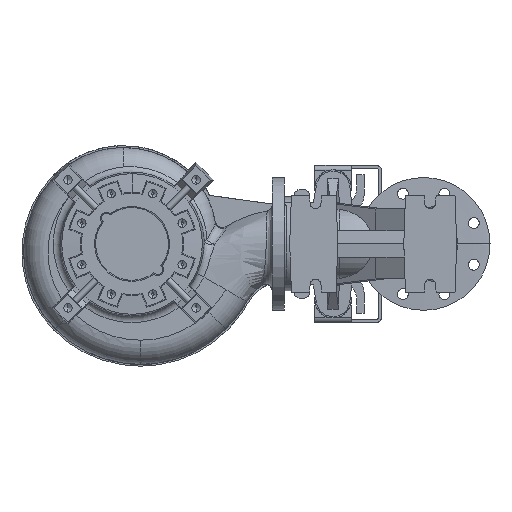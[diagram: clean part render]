
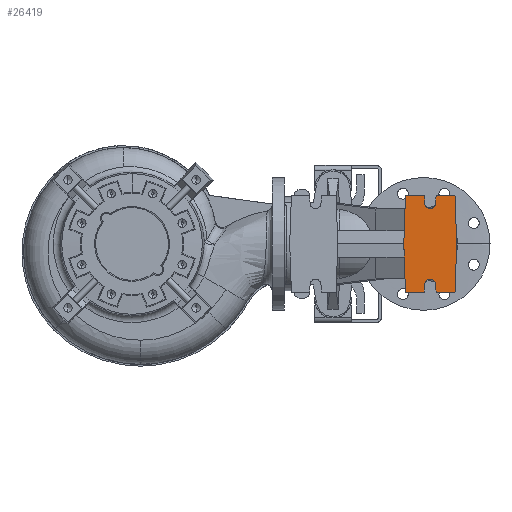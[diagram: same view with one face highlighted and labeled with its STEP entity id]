
A CAD part, front view. The second image highlights one B-rep face of the part: STEP entity #26419.
In plain terms, the highlighted planar face has unit normal (0, -1, 0).
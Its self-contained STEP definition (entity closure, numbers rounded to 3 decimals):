
#779 = CARTESIAN_POINT ( 'NONE',  ( 494., -332., 67.5 ) ) ;
#942 = CIRCLE ( 'NONE', #10735, 9. ) ;
#1427 = AXIS2_PLACEMENT_3D ( 'NONE', #2988, #6251, #15425 ) ;
#1628 = VECTOR ( 'NONE', #4411, 1000. ) ;
#1698 = CARTESIAN_POINT ( 'NONE',  ( 502.988, -332., 67.029 ) ) ;
#1704 = EDGE_CURVE ( 'NONE', #39721, #29765, #27693, .T. ) ;
#2017 = VECTOR ( 'NONE', #14602, 1000. ) ;
#2795 = DIRECTION ( 'NONE',  ( 1., 0., 0. ) ) ;
#2988 = CARTESIAN_POINT ( 'NONE',  ( 494., -332., -67.5 ) ) ;
#3316 = ORIENTED_EDGE ( 'NONE', *, *, #22464, .F. ) ;
#3815 = VERTEX_POINT ( 'NONE', #14308 ) ;
#4085 = EDGE_CURVE ( 'NONE', #39721, #22048, #12103, .T. ) ;
#4411 = DIRECTION ( 'NONE',  ( -0.052, 0., 0.999 ) ) ;
#4763 = ORIENTED_EDGE ( 'NONE', *, *, #15176, .F. ) ;
#4981 = VERTEX_POINT ( 'NONE', #23804 ) ;
#5100 = VECTOR ( 'NONE', #9059, 1000. ) ;
#5421 = ORIENTED_EDGE ( 'NONE', *, *, #32370, .F. ) ;
#5450 = EDGE_CURVE ( 'NONE', #36245, #9759, #17035, .T. ) ;
#5585 = ORIENTED_EDGE ( 'NONE', *, *, #4085, .T. ) ;
#5902 = DIRECTION ( 'NONE',  ( 1., 0., 0. ) ) ;
#6251 = DIRECTION ( 'NONE',  ( 0., -1., 0. ) ) ;
#6468 = EDGE_CURVE ( 'NONE', #3815, #29765, #12296, .T. ) ;
#6473 = CARTESIAN_POINT ( 'NONE',  ( 450.206, -332., 0. ) ) ;
#6665 = CARTESIAN_POINT ( 'NONE',  ( 505.926, -332., 123.087 ) ) ;
#6691 = CARTESIAN_POINT ( 'NONE',  ( 454.537, -332., 124.019 ) ) ;
#6699 = ORIENTED_EDGE ( 'NONE', *, *, #1704, .F. ) ;
#6858 = CARTESIAN_POINT ( 'NONE',  ( 535., -332., 80. ) ) ;
#7115 = DIRECTION ( 'NONE',  ( 0., 1., 0. ) ) ;
#7428 = EDGE_CURVE ( 'NONE', #35626, #39139, #37581, .T. ) ;
#7682 = CARTESIAN_POINT ( 'NONE',  ( 484.333, -332., 80. ) ) ;
#7686 = CARTESIAN_POINT ( 'NONE',  ( 505.926, -332., -123.087 ) ) ;
#8401 = ORIENTED_EDGE ( 'NONE', *, *, #21754, .F. ) ;
#8512 = CARTESIAN_POINT ( 'NONE',  ( 555.27, -332., 80. ) ) ;
#9059 = DIRECTION ( 'NONE',  ( -0.035, 0., 0.999 ) ) ;
#9627 = VECTOR ( 'NONE', #9750, 1000. ) ;
#9648 = ORIENTED_EDGE ( 'NONE', *, *, #38322, .T. ) ;
#9750 = DIRECTION ( 'NONE',  ( -0.035, 0., -0.999 ) ) ;
#9759 = VERTEX_POINT ( 'NONE', #25937 ) ;
#10444 = EDGE_CURVE ( 'NONE', #27446, #39139, #30661, .T. ) ;
#10735 = AXIS2_PLACEMENT_3D ( 'NONE', #779, #7115, #25576 ) ;
#11354 = VERTEX_POINT ( 'NONE', #32815 ) ;
#11804 = ORIENTED_EDGE ( 'NONE', *, *, #21770, .T. ) ;
#11902 = VECTOR ( 'NONE', #28782, 1000. ) ;
#12103 = LINE ( 'NONE', #36875, #5100 ) ;
#12296 = LINE ( 'NONE', #33607, #28774 ) ;
#14308 = CARTESIAN_POINT ( 'NONE',  ( 503.667, -332., -80. ) ) ;
#14451 = LINE ( 'NONE', #36795, #28378 ) ;
#14602 = DIRECTION ( 'NONE',  ( 1., 0., 0. ) ) ;
#14799 = CARTESIAN_POINT ( 'NONE',  ( 502.988, -332., -67.029 ) ) ;
#15176 = EDGE_CURVE ( 'NONE', #3815, #36245, #23123, .T. ) ;
#15425 = DIRECTION ( 'NONE',  ( -1., 0., 0. ) ) ;
#17035 = CIRCLE ( 'NONE', #1427, 9. ) ;
#17065 = DIRECTION ( 'NONE',  ( -0.052, 0., 0.999 ) ) ;
#18473 = DIRECTION ( 'NONE',  ( 0., 1., 0. ) ) ;
#18871 = PLANE ( 'NONE',  #21342 ) ;
#20788 = DIRECTION ( 'NONE',  ( 1., 0., 0. ) ) ;
#21342 = AXIS2_PLACEMENT_3D ( 'NONE', #37346, #18473, #2795 ) ;
#21620 = DIRECTION ( 'NONE',  ( -0.035, 0., -0.999 ) ) ;
#21754 = EDGE_CURVE ( 'NONE', #9759, #31725, #27603, .T. ) ;
#21770 = EDGE_CURVE ( 'NONE', #4981, #31420, #32482, .T. ) ;
#22048 = VERTEX_POINT ( 'NONE', #6858 ) ;
#22464 = EDGE_CURVE ( 'NONE', #11354, #22048, #14451, .T. ) ;
#22483 = ORIENTED_EDGE ( 'NONE', *, *, #10444, .F. ) ;
#23123 = LINE ( 'NONE', #7686, #1628 ) ;
#23152 = LINE ( 'NONE', #8512, #2017 ) ;
#23792 = VECTOR ( 'NONE', #37181, 1000. ) ;
#23804 = CARTESIAN_POINT ( 'NONE',  ( 485.012, -332., 67.029 ) ) ;
#24617 = ORIENTED_EDGE ( 'NONE', *, *, #7428, .T. ) ;
#24648 = DIRECTION ( 'NONE',  ( 1., 0., 0. ) ) ;
#24923 = FACE_OUTER_BOUND ( 'NONE', #28279, .T. ) ;
#25576 = DIRECTION ( 'NONE',  ( 1., 0., 0. ) ) ;
#25743 = VECTOR ( 'NONE', #33912, 1000. ) ;
#25937 = CARTESIAN_POINT ( 'NONE',  ( 485.012, -332., -67.029 ) ) ;
#26419 = ADVANCED_FACE ( 'NONE', ( #24923 ), #18871, .F. ) ;
#27050 = VERTEX_POINT ( 'NONE', #1698 ) ;
#27187 = EDGE_CURVE ( 'NONE', #27446, #31725, #39694, .T. ) ;
#27446 = VERTEX_POINT ( 'NONE', #39795 ) ;
#27474 = CARTESIAN_POINT ( 'NONE',  ( 555.27, -332., -80. ) ) ;
#27603 = LINE ( 'NONE', #40042, #23792 ) ;
#27693 = LINE ( 'NONE', #37071, #37241 ) ;
#28279 = EDGE_LOOP ( 'NONE', ( #5585, #3316, #9648, #30360, #11804, #5421, #24617, #22483, #29186, #8401, #32791, #4763, #28557, #6699 ) ) ;
#28378 = VECTOR ( 'NONE', #5902, 1000. ) ;
#28557 = ORIENTED_EDGE ( 'NONE', *, *, #6468, .T. ) ;
#28774 = VECTOR ( 'NONE', #24648, 1000. ) ;
#28782 = DIRECTION ( 'NONE',  ( -0.052, 0., -0.999 ) ) ;
#29186 = ORIENTED_EDGE ( 'NONE', *, *, #27187, .T. ) ;
#29765 = VERTEX_POINT ( 'NONE', #37876 ) ;
#30360 = ORIENTED_EDGE ( 'NONE', *, *, #40119, .T. ) ;
#30661 = LINE ( 'NONE', #33516, #25743 ) ;
#31420 = VERTEX_POINT ( 'NONE', #7682 ) ;
#31685 = CARTESIAN_POINT ( 'NONE',  ( 482.41, -332., 116.683 ) ) ;
#31725 = VERTEX_POINT ( 'NONE', #36700 ) ;
#32370 = EDGE_CURVE ( 'NONE', #35626, #31420, #23152, .T. ) ;
#32482 = LINE ( 'NONE', #31685, #32894 ) ;
#32791 = ORIENTED_EDGE ( 'NONE', *, *, #5450, .F. ) ;
#32815 = CARTESIAN_POINT ( 'NONE',  ( 503.667, -332., 80. ) ) ;
#32894 = VECTOR ( 'NONE', #17065, 1000. ) ;
#33022 = VECTOR ( 'NONE', #20788, 1000. ) ;
#33516 = CARTESIAN_POINT ( 'NONE',  ( 454.537, -332., -124.019 ) ) ;
#33607 = CARTESIAN_POINT ( 'NONE',  ( 555.27, -332., -80. ) ) ;
#33912 = DIRECTION ( 'NONE',  ( -0.035, 0., 0.999 ) ) ;
#34489 = LINE ( 'NONE', #6665, #11902 ) ;
#35626 = VERTEX_POINT ( 'NONE', #36407 ) ;
#36245 = VERTEX_POINT ( 'NONE', #14799 ) ;
#36407 = CARTESIAN_POINT ( 'NONE',  ( 453., -332., 80. ) ) ;
#36700 = CARTESIAN_POINT ( 'NONE',  ( 484.333, -332., -80. ) ) ;
#36795 = CARTESIAN_POINT ( 'NONE',  ( 555.27, -332., 80. ) ) ;
#36875 = CARTESIAN_POINT ( 'NONE',  ( 533.612, -332., 119.745 ) ) ;
#37071 = CARTESIAN_POINT ( 'NONE',  ( 533.612, -332., -119.745 ) ) ;
#37181 = DIRECTION ( 'NONE',  ( -0.052, 0., -0.999 ) ) ;
#37241 = VECTOR ( 'NONE', #21620, 1000. ) ;
#37269 = CARTESIAN_POINT ( 'NONE',  ( 537.794, -332., 0. ) ) ;
#37346 = CARTESIAN_POINT ( 'NONE',  ( 555.27, -332., 120.501 ) ) ;
#37581 = LINE ( 'NONE', #6691, #9627 ) ;
#37876 = CARTESIAN_POINT ( 'NONE',  ( 535., -332., -80. ) ) ;
#38322 = EDGE_CURVE ( 'NONE', #11354, #27050, #34489, .T. ) ;
#39139 = VERTEX_POINT ( 'NONE', #6473 ) ;
#39694 = LINE ( 'NONE', #27474, #33022 ) ;
#39721 = VERTEX_POINT ( 'NONE', #37269 ) ;
#39795 = CARTESIAN_POINT ( 'NONE',  ( 453., -332., -80. ) ) ;
#40042 = CARTESIAN_POINT ( 'NONE',  ( 482.41, -332., -116.683 ) ) ;
#40119 = EDGE_CURVE ( 'NONE', #27050, #4981, #942, .T. ) ;
